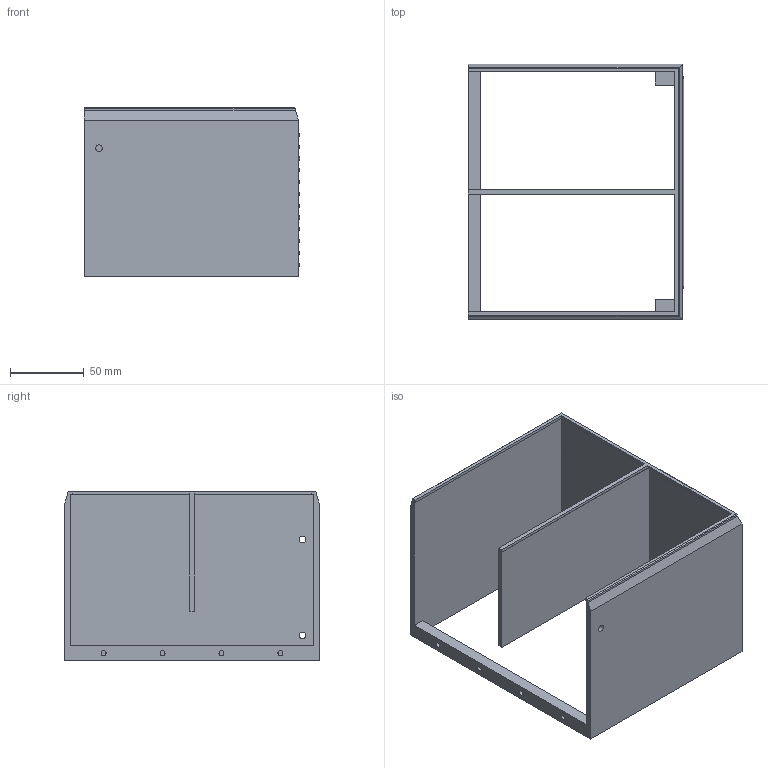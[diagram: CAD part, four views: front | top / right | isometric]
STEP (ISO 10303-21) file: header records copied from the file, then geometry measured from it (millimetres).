
FILE_DESCRIPTION(('Open CASCADE Model'),'2;1');
FILE_NAME('Open CASCADE Shape Model','2026-10-23T16:06:26',('Author'),( 'Open CASCADE'),'Open CASCADE STEP processor 7.8','Open CASCADE 7.8' ,'Unknown');
FILE_SCHEMA(('AUTOMOTIVE_DESIGN { 1 0 10303 214 1 1 1 1 }'));
Length unit declared in the file: millimetre
Products named in the file (1): Open CASCADE STEP translator 7.8 4
Bounding box: 146.14 x 173.2 x 114.6 mm (x, y, z)
Volume: 254535.7 mm3; surface area: 140724.9 mm2
Topology: 1 solids, 1 shells, 89 faces, 210 edges, 138 vertices
Faces by surface type: plane 36, sphere 24, cylinder 23, bspline 6
Full cylindrical faces by diameter (mm): 3.4 x4, 4.6 x7
Entity records: 6224 total; most frequent: CARTESIAN_POINT 2065, DIRECTION 719, ORIENTED_EDGE 420, PCURVE 420, DEFINITIONAL_REPRESENTATION 420, LINE 370, VECTOR 370, EDGE_CURVE 210
